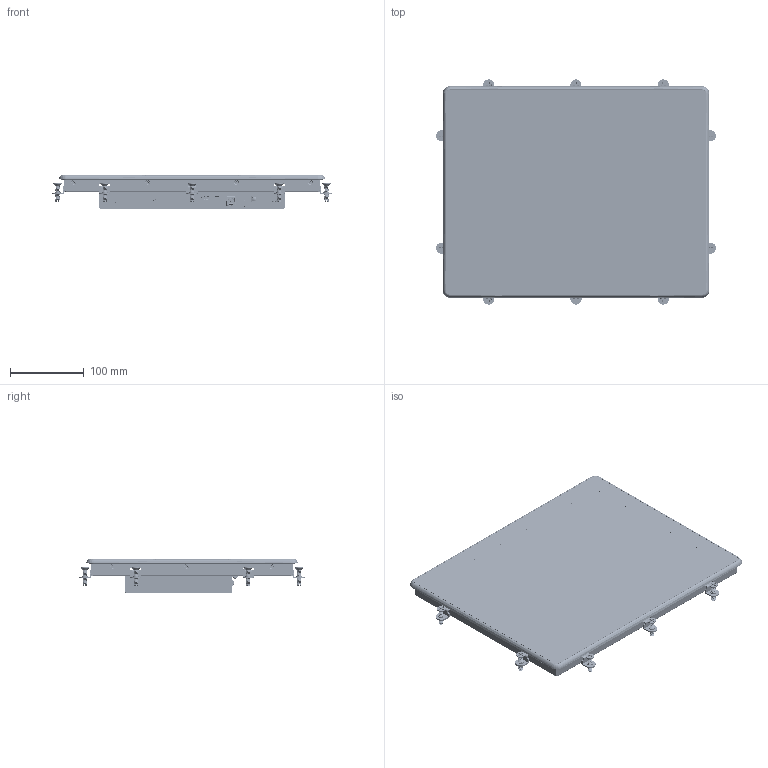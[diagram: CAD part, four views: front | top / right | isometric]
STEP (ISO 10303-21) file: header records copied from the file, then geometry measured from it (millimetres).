
FILE_DESCRIPTION((''),'2;1');
FILE_NAME('NT4A-150','2026-06-02T13:22:41',('gijyu181'),(''),'CREO PARAMETRIC BY PTC INC, 2018050','CREO PARAMETRIC BY PTC INC, 2018050','');
FILE_SCHEMA(('CONFIG_CONTROL_DESIGN','SHAPE_APPEARANCE_LAYERS_GROUPS'));
Products named in the file (1): NT4A-150
Bounding box: 378.6 x 304.6 x 46.1 mm (x, y, z)
Volume: 563043.2 mm3; surface area: 616425.7 mm2
Topology: 30 solids, 65 shells, 8640 faces, 23712 edges, 15388 vertices
Faces by surface type: plane 5141, cylinder 1956, extrusion 569, bspline 393, cone 356, torus 166, sphere 55, revolution 4
Entity records: 405441 total; most frequent: CARTESIAN_POINT 137812, ORIENTED_EDGE 47406, DIRECTION 40248, EDGE_CURVE 23706, VECTOR 17088, LINE 16519, VERTEX_POINT 15388, AXIS2_PLACEMENT_3D 11578
